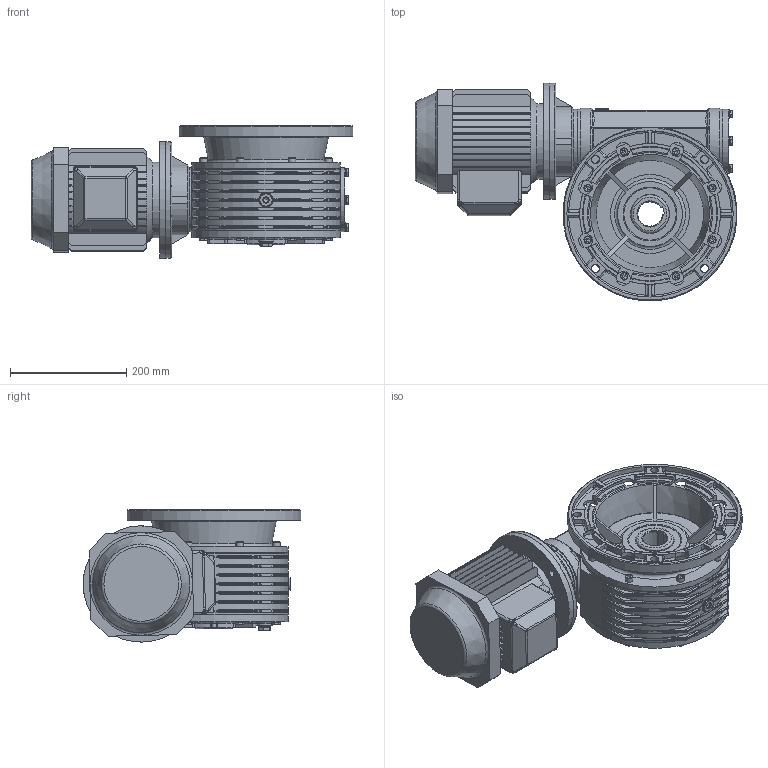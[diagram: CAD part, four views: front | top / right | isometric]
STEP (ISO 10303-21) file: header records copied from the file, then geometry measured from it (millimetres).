
FILE_DESCRIPTION((''),'2;1');
FILE_NAME('Y:\Archivi Inventor\Prog_01\GRAND_60\FIGURINI\MRV60 sito\90S\MRV60_F1_90S_B5.stp','2013-02-08T11:03:47',('tech3'),(''),'Autodesk Inventor 2013','Autodesk Inventor 2013','');
FILE_SCHEMA(('AUTOMOTIVE_DESIGN { 1 0 10303 214 1 1 1 1 }'));
Length unit declared in the file: millimetre
Products named in the file (20): MRV60_90S_90L_B5; MRV60_FIG; 0106001.A0 figurino; 0106009; UNI 5739 M8 x 20; figurino corona; PARAOLIO 65x90x10; 0106028; 0106029; UNI 5739 M8 x 25; Tappo3_8 GAS; Guarnizione 3_8 GAS; Tappo 3_8 GAS_esagn_incsst; DIN EN ISO 4762 M8 x 16; 0106002.A0 figurino; DIN EN ISO 4762 M8 x 20; 0106003.A0 figurino; UNI 8839 A 8; 0106006; motori B5 90S
Assembly tree (46 placements, depth 3):
  MRV60_90S_90L_B5
    MRV60_FIG
      0106001.A0 figurino
      0106009
      UNI 5739 M8 x 20  x4
      figurino corona
      PARAOLIO 65x90x10  x2
      0106028
      0106029  x2
      UNI 5739 M8 x 25  x8
      Tappo3_8 GAS
      Guarnizione 3_8 GAS  x2
      Tappo 3_8 GAS_esagn_incsst  x2
      DIN EN ISO 4762 M8 x 16  x4
      0106002.A0 figurino
      DIN EN ISO 4762 M8 x 20  x8
      0106003.A0 figurino
      UNI 8839 A 8  x4
    0106006
    motori B5 90S
Bounding box: 553.53 x 374.43 x 227.35 mm (x, y, z)
Volume: 14573238.5 mm3; surface area: 1426333.6 mm2
Topology: 45 solids, 49 shells, 2080 faces, 5118 edges, 3118 vertices
Faces by surface type: plane 905, cylinder 630, bspline 204, cone 162, torus 157, sphere 22
Full cylindrical faces by diameter (mm): 2 x2, 6.647 x24, 8 x26, 8.5 x40, 8.75 x4, 11 x4, 11.63 x12, 12 x4, 13 x12, 13.046 x1, 14 x4, 14.95 x3, 16 x4, 16.3 x2, 16.5 x2, 22 x5, 24 x9, 25 x2, 42 x1, 65 x2, 70 x1, 72.881 x2, 80 x5, 83.5 x2, 90 x5, 109.5 x1, 110 x4, 114 x2, 114.4 x1, 120 x1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
Entity records: 60589 total; most frequent: CARTESIAN_POINT 20667, DIRECTION 8160, ORIENTED_EDGE 7824, EDGE_CURVE 3912, AXIS2_PLACEMENT_3D 3209, VERTEX_POINT 2539, EDGE_LOOP 2063, VECTOR 1742
